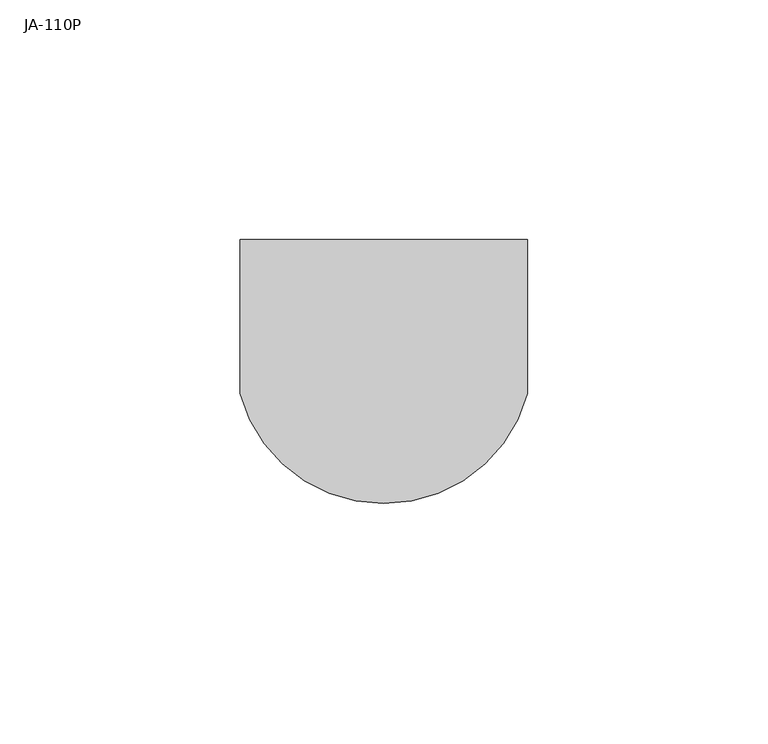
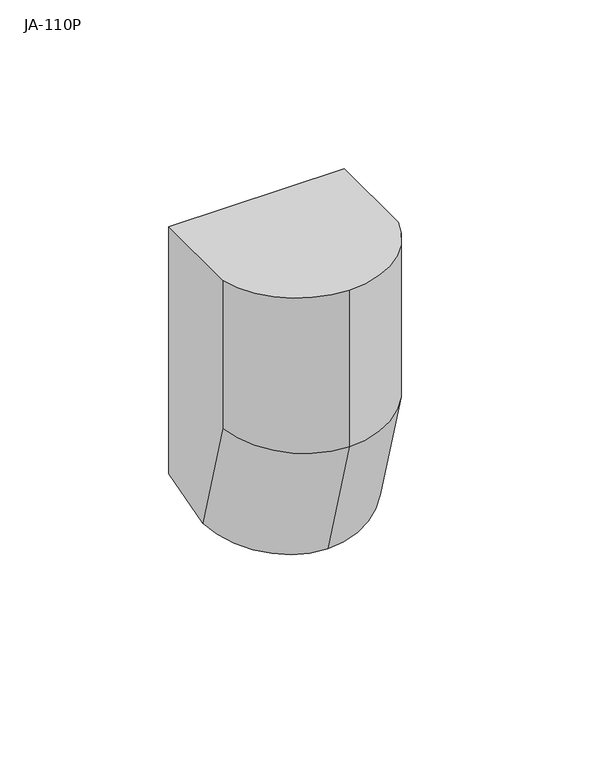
"""IFC4 building model written with IfcOpenShell, lengths in millimetres: proxy geometry, PIR detektory.CC : JA-110P."""

from ifc_helpers import new_model, si_unit, frame, origin, place, context, project, spatial, circle_curve, ellipse_curve, source, transform, mapped, element, save
from ifc_brep_helpers import plane_surface, cylinder_surface, advanced_brep


def ja_110p_d42fbc9a(model_context):
    return source(origin(), model_context, "Body", "AdvancedBrep", [
        advanced_brep(
        [(30.0, 0.0, 47.5), (-30.0, 0.0, 47.5), (-30.0, -32.0, 47.5), (0.0, -55.0, 47.5), (30.0, -32.0, 47.5), (30.0, 0.0, -41.7363987), (-30.0, 0.0, -41.7363987), (-30.0, -20.1000665, -47.5), (-30.0, -32.0, -6.0), (30.0, -32.0, -6.0), (30.0, -20.1000665, -47.5), (0.0, -42.2090855, -53.8396592), (0.0, -55.0, -9.2324392)],
        [
            (0, 1),
            (1, 2),
            (2, 3, circle_curve(frame((0.0, -23.9347826, 47.5), z_axis=(0.0, 0.0, 1.0), x_axis=(1.0, 0.0, 0.0)), 31.0652174)),
            (3, 4, circle_curve(frame((0.0, -23.9347826, 47.5), z_axis=(0.0, 0.0, 1.0), x_axis=(1.0, 0.0, 0.0)), 31.0652174)),
            (4, 0),
            (0, 5),
            (5, 6),
            (6, 1),
            (6, 7),
            (7, 8),
            (8, 2),
            (4, 9),
            (9, 10),
            (10, 5),
            (10, 11, circle_curve(frame((0.0, -12.3472819, -45.2769248), z_axis=(0.0, 0.27563735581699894, -0.961261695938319), x_axis=(1.0, 0.0, 0.0)), 31.0652174)),
            (11, 7, circle_curve(frame((0.0, -12.3472819, -45.2769248), z_axis=(0.0, 0.27563735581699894, -0.961261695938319), x_axis=(1.0, 0.0, 0.0)), 31.0652174)),
            (8, 12, ellipse_curve(frame((0.0, -23.9347826, -4.8665076), z_axis=(0.0, -0.13917310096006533, 0.9902680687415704), x_axis=(0.0, 0.9902680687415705, 0.1391731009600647)), 31.3705131, 31.0652174)),
            (12, 3),
            (12, 9, ellipse_curve(frame((0.0, -23.9347826, -4.8665076), z_axis=(0.0, -0.13917310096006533, 0.9902680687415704), x_axis=(0.0, 0.9902680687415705, 0.1391731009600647)), 31.3705131, 31.0652174)),
            (11, 12),
        ],
        [
            plane_surface(frame((0.0, -32.0, 47.5), z_axis=(0.0, 0.0, 1.0), x_axis=(1.0, 0.0, 0.0))),
            plane_surface(frame((30.0, 0.0, 47.5), z_axis=(0.0, 1.0, 0.0), x_axis=(0.0, 0.0, -1.0))),
            plane_surface(frame((-30.0, 0.0, 47.5), z_axis=(-1.0, 0.0, 0.0), x_axis=(0.0, 0.0, -1.0))),
            plane_surface(frame((30.0, -32.0, 47.5), z_axis=(1.0, 0.0, 0.0), x_axis=(0.0, 0.0, -1.0))),
            plane_surface(frame((0.0, -20.1000665, -47.5), z_axis=(0.0, 0.27563735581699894, -0.961261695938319), x_axis=(1.0, 0.0, 0.0))),
            cylinder_surface(frame((0.0, -23.9347826, 47.5), z_axis=(0.0, 0.0, 1.0), x_axis=(1.0, 0.0, 0.0)), 31.0652174),
            cylinder_surface(frame((0.0, -24.2472155, -3.7769248), z_axis=(0.0, -0.27563735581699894, 0.961261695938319), x_axis=(1.0, 0.0, 0.0)), 31.0652174),
        ],
        [
            (0, [[1, 2, 3, 4, 5]]),
            (1, [[-1, 6, 7, 8]]),
            (2, [[-2, -8, 9, 10, 11]]),
            (3, [[-6, -5, 12, 13, 14]]),
            (4, [[15, 16, -9, -7, -14]]),
            (5, [[-3, -11, 17, 18]]),
            (5, [[-4, -18, 19, -12]]),
            (6, [[-10, -16, 20, -17]]),
            (6, [[-13, -19, -20, -15]]),
        ],
    ),
    ])


if __name__ == "__main__":
    model = new_model("IFC4")
    model_context = context("Model", 3, world=origin())
    ifc_project = project(units=[si_unit("LENGTHUNIT", "METRE", prefix="MILLI")], contexts=[model_context])
    site = spatial("IfcSite", under=ifc_project)
    building = spatial("IfcBuilding", under=site)
    placement = place(None, origin())
    ja_110p_shape = ja_110p_d42fbc9a(model_context)
    element("IfcBuildingElementProxy", 1, Name="PIR detektory.CC : JA-110P", ObjectType="PIR detektory.CC : JA-110P", at=placement, inside=building, context=model_context, shape_type="MappedRepresentation", body=[
        mapped(ja_110p_shape, transform((0.0, 0.0, 0.0), x_axis=(1.0, 0.0, 0.0), y_axis=(0.0, 1.0, 0.0), z_axis=(0.0, 0.0, 1.0))),
    ])
    save(model, "model.ifc")
